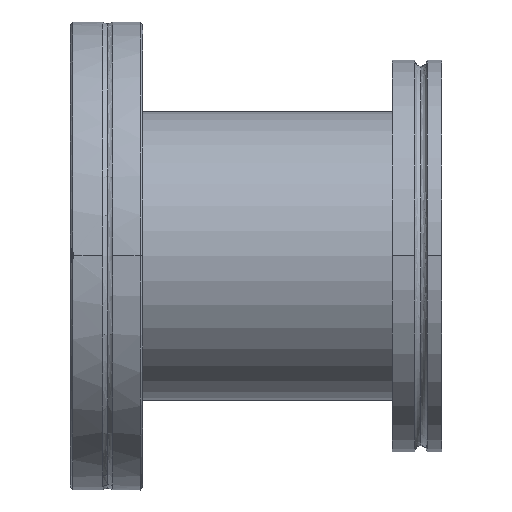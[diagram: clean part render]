
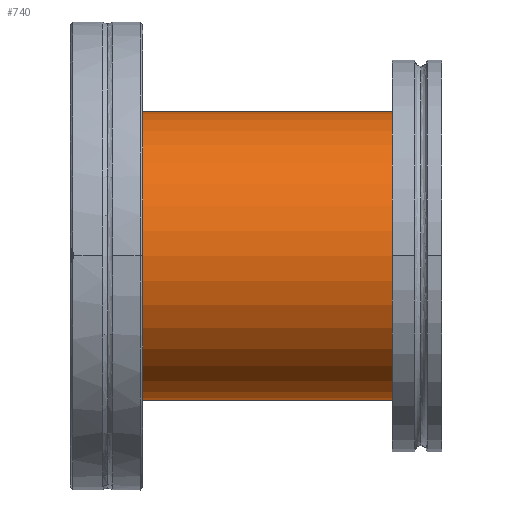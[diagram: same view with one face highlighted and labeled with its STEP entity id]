
A CAD part, top view. The second image highlights one B-rep face of the part: STEP entity #740.
In plain terms, the highlighted cylindrical face has radius 35 mm (diameter 70 mm), a partial arc.
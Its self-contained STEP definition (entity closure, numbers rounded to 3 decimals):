
#699=CARTESIAN_POINT('',(37.25,0.,0.0));
#700=DIRECTION('',(1.0,0.,0.0));
#701=DIRECTION('',(0.0,1.0,0.0));
#702=AXIS2_PLACEMENT_3D('',#699,#700,#701);
#703=CYLINDRICAL_SURFACE('',#702,35.);
#704=CARTESIAN_POINT('',(0.,35.,0.0));
#705=VERTEX_POINT('',#704);
#706=CARTESIAN_POINT('',(74.5,35.0,0.0));
#707=VERTEX_POINT('',#706);
#708=CARTESIAN_POINT('',(0.,35.,0.0));
#709=DIRECTION('',(1.0,0.0,0.0));
#710=VECTOR('',#709,74.5);
#711=LINE('',#708,#710);
#712=EDGE_CURVE('',#705,#707,#711,.T.);
#713=ORIENTED_EDGE('',*,*,#712,.F.);
#714=CARTESIAN_POINT('',(0.,-35.,0.));
#715=VERTEX_POINT('',#714);
#716=CARTESIAN_POINT('',(0.,0.,0.0));
#717=DIRECTION('',(1.0,0.0,0.0));
#718=DIRECTION('',(0.0,1.0,0.0));
#719=AXIS2_PLACEMENT_3D('',#716,#717,#718);
#720=CIRCLE('',#719,35.);
#721=EDGE_CURVE('',#705,#715,#720,.T.);
#722=ORIENTED_EDGE('',*,*,#721,.T.);
#723=CARTESIAN_POINT('',(74.5,-35.,0.));
#724=VERTEX_POINT('',#723);
#725=CARTESIAN_POINT('',(74.5,-35.,0.));
#726=DIRECTION('',(-1.0,0.0,0.0));
#727=VECTOR('',#726,74.5);
#728=LINE('',#725,#727);
#729=EDGE_CURVE('',#724,#715,#728,.T.);
#730=ORIENTED_EDGE('',*,*,#729,.F.);
#731=CARTESIAN_POINT('',(74.5,0.,0.0));
#732=DIRECTION('',(1.0,0.0,0.0));
#733=DIRECTION('',(0.0,1.0,0.0));
#734=AXIS2_PLACEMENT_3D('',#731,#732,#733);
#735=CIRCLE('',#734,35.);
#736=EDGE_CURVE('',#707,#724,#735,.T.);
#737=ORIENTED_EDGE('',*,*,#736,.F.);
#738=EDGE_LOOP('',(#713,#722,#730,#737));
#739=FACE_OUTER_BOUND('',#738,.T.);
#740=ADVANCED_FACE('',(#739),#703,.T.);
